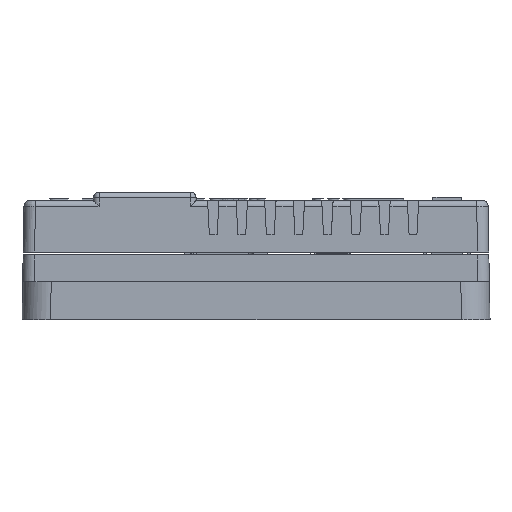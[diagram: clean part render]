
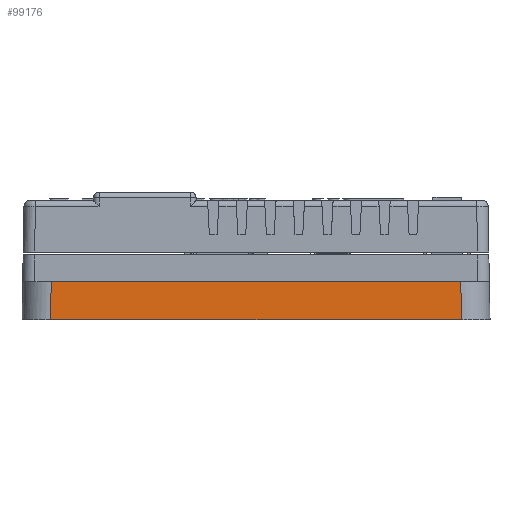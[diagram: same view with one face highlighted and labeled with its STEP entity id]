
A CAD part, left-side view. The second image highlights one B-rep face of the part: STEP entity #99176.
In plain terms, the highlighted planar face has unit normal (-1, 0, 0.018).
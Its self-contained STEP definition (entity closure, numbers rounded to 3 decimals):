
#2334 = LINE ( 'NONE', #4708, #120910 ) ;
#4327 = DIRECTION ( 'NONE',  ( 0., -1., 0. ) ) ;
#4708 = CARTESIAN_POINT ( 'NONE',  ( -66.989, 35.99, 0.628 ) ) ;
#10466 = PLANE ( 'NONE',  #143360 ) ;
#14340 = EDGE_CURVE ( 'NONE', #39684, #108639, #2334, .T. ) ;
#16199 = DIRECTION ( 'NONE',  ( -0.017, 0.017, -1. ) ) ;
#23642 = ORIENTED_EDGE ( 'NONE', *, *, #46441, .F. ) ;
#33713 = CARTESIAN_POINT ( 'NONE',  ( -67., -36.001, 0. ) ) ;
#36905 = EDGE_CURVE ( 'NONE', #148234, #97708, #97178, .T. ) ;
#39365 = CARTESIAN_POINT ( 'NONE',  ( -66.883, 0., 6.7 ) ) ;
#39684 = VERTEX_POINT ( 'NONE', #104931 ) ;
#44254 = EDGE_CURVE ( 'NONE', #108639, #148234, #92224, .T. ) ;
#45172 = LINE ( 'NONE', #39365, #109993 ) ;
#46441 = EDGE_CURVE ( 'NONE', #39684, #97708, #45172, .T. ) ;
#47792 = EDGE_LOOP ( 'NONE', ( #144996, #125331, #23642, #146102 ) ) ;
#49482 = CARTESIAN_POINT ( 'NONE',  ( -66.883, -35.884, 6.7 ) ) ;
#61665 = VECTOR ( 'NONE', #4327, 1000. ) ;
#68152 = CARTESIAN_POINT ( 'NONE',  ( -67., 0., 0. ) ) ;
#73510 = CARTESIAN_POINT ( 'NONE',  ( -67., 0., 0. ) ) ;
#79677 = DIRECTION ( 'NONE',  ( 0.017, 0., 1. ) ) ;
#92224 = LINE ( 'NONE', #73510, #61665 ) ;
#97178 = LINE ( 'NONE', #118065, #124188 ) ;
#97708 = VERTEX_POINT ( 'NONE', #49482 ) ;
#99176 = ADVANCED_FACE ( 'NONE', ( #118939 ), #10466, .T. ) ;
#104931 = CARTESIAN_POINT ( 'NONE',  ( -66.883, 35.884, 6.7 ) ) ;
#108639 = VERTEX_POINT ( 'NONE', #147754 ) ;
#109993 = VECTOR ( 'NONE', #119805, 1000. ) ;
#118065 = CARTESIAN_POINT ( 'NONE',  ( -66.989, -35.99, 0.628 ) ) ;
#118939 = FACE_OUTER_BOUND ( 'NONE', #47792, .T. ) ;
#119805 = DIRECTION ( 'NONE',  ( 0., -1., 0. ) ) ;
#120910 = VECTOR ( 'NONE', #16199, 1000. ) ;
#124188 = VECTOR ( 'NONE', #129699, 1000. ) ;
#125331 = ORIENTED_EDGE ( 'NONE', *, *, #36905, .T. ) ;
#129699 = DIRECTION ( 'NONE',  ( 0.017, 0.017, 1. ) ) ;
#143360 = AXIS2_PLACEMENT_3D ( 'NONE', #68152, #148620, #79677 ) ;
#144996 = ORIENTED_EDGE ( 'NONE', *, *, #44254, .T. ) ;
#146102 = ORIENTED_EDGE ( 'NONE', *, *, #14340, .T. ) ;
#147754 = CARTESIAN_POINT ( 'NONE',  ( -67., 36.001, 0. ) ) ;
#148234 = VERTEX_POINT ( 'NONE', #33713 ) ;
#148620 = DIRECTION ( 'NONE',  ( -1., 0., 0.017 ) ) ;
